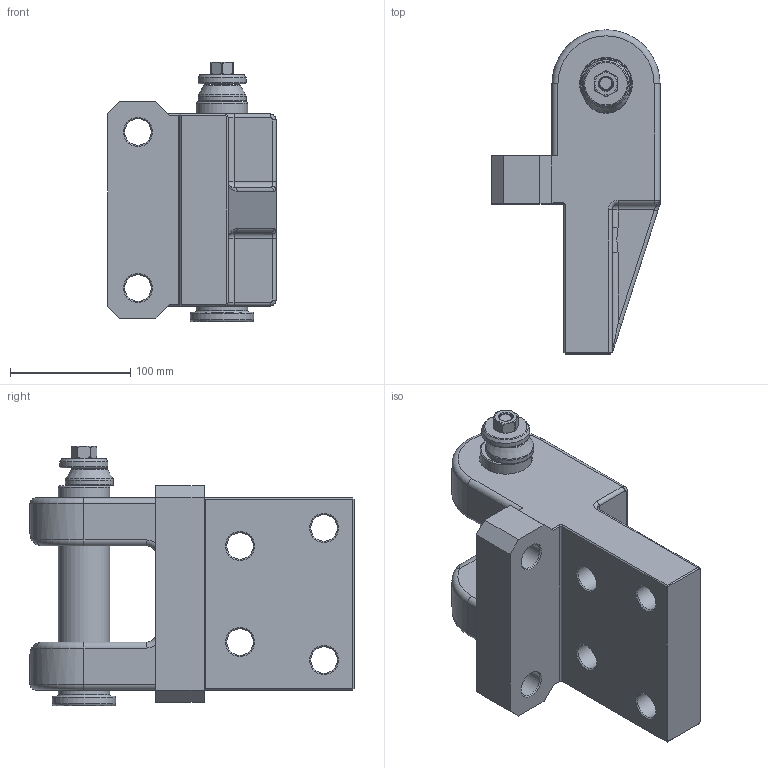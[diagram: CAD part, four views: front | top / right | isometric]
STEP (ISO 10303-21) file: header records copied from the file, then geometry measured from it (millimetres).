
FILE_DESCRIPTION(/* description */ (''),/* implementation_level */ '2;1');
FILE_NAME(/* name */ '2133.12.044.stp',/* time_stamp */ '2025-04-02T14:26:13+08:00',/* author */ (''),/* organization */ (''),/* preprocessor_version */ 'ST-DEVELOPER v16',/* originating_system */ 'SIEMENS PLM Software NX 10.0',/* authorisation */ '');
FILE_SCHEMA (('AP203_CONFIGURATION_CONTROLLED_3D_DESIGN_OF_MECHANICAL_PARTS_AND_ASSEMBLIES_MIM_LF { 1 0 10303 403 2 1 2}'));
Length unit declared in the file: millimetre
Products named in the file (1): Admi177C9AD32io9
Bounding box: 140 x 270 x 216 mm (x, y, z)
Volume: 2503190.8 mm3; surface area: 229416.7 mm2
Topology: 5 solids, 5 shells, 995 faces, 2626 edges, 1723 vertices
Faces by surface type: extrusion 424, plane 399, cylinder 98, torus 29, cone 24, bspline 19, sphere 2
Full cylindrical faces by diameter (mm): 16 x1, 22 x6, 26 x1, 36 x6, 40 x2, 43 x1, 44 x2, 53 x1
Entity records: 38066 total; most frequent: CARTESIAN_POINT 15803, ORIENTED_EDGE 5080, DIRECTION 3199, EDGE_CURVE 2540, VERTEX_POINT 1698, VECTOR 1573, B_SPLINE_CURVE_WITH_KNOTS 1554, EDGE_LOOP 1158
